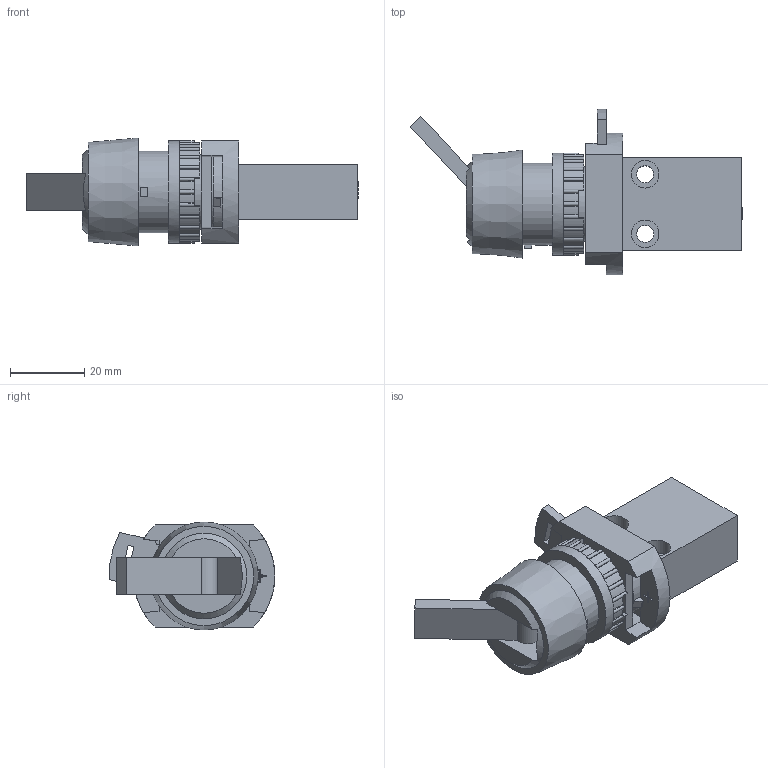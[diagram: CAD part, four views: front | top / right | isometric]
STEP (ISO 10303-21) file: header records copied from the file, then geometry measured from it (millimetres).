
FILE_DESCRIPTION (( 'STEP AP214' ), '1' );
FILE_NAME ('18-T-23-016---T-25-311_Airtec.step', '2018-11-15T13:13:10', ( '' ), ( '' ), 'SwSTEP 2.0', 'SolidWorks 2010', '' );
FILE_SCHEMA (( 'AUTOMOTIVE_DESIGN' ));
Length unit declared in the file: millimetre
Products named in the file (3): 18-T-23-016-Airtec; T-25-311_161206; 18-T-23-016---T-25-311_Airtec
Assembly tree (2 placements, depth 2):
  18-T-23-016---T-25-311_Airtec
    T-25-311_161206
    18-T-23-016-Airtec
Bounding box: 89.16 x 44.48 x 29 mm (x, y, z)
Volume: 34900.5 mm3; surface area: 14058.5 mm2
Topology: 2 solids, 2 shells, 378 faces, 1037 edges, 671 vertices
Faces by surface type: plane 180, cylinder 139, cone 45, torus 13, sphere 1
Full cylindrical faces by diameter (mm): 2.693 x2, 3.2 x2, 4.134 x2, 4.5 x2, 5.7 x2, 6 x1, 7.4 x4, 10 x1, 16 x1, 20 x1, 20.3 x1, 22 x1, 27.4 x1
Entity records: 12283 total; most frequent: CARTESIAN_POINT 2595, DIRECTION 2096, ORIENTED_EDGE 1978, EDGE_CURVE 989, AXIS2_PLACEMENT_3D 829, VERTEX_POINT 658, CIRCLE 446, EDGE_LOOP 439
